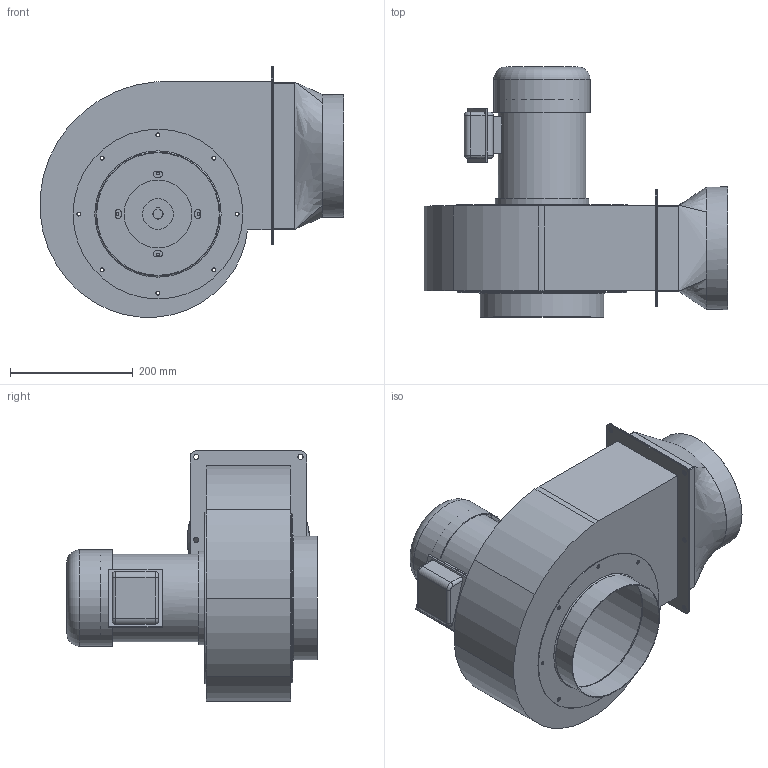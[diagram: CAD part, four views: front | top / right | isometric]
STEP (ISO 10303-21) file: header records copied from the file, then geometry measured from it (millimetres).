
FILE_DESCRIPTION(/* description */ ('Unknown'),/* implementation_level */ '2;1');
FILE_NAME(/* name */ 'CY230A4PV-EG 型錄',/* time_stamp */ '2026-06-29T11:50:23+08:00',/* author */ ('Unknown'),/* organization */ ('Unknown'),/* preprocessor_version */ 'ST-DEVELOPER v20',/* originating_system */ 'Solid Edge',/* authorisation */ 'Unknown');
FILE_SCHEMA (('AUTOMOTIVE_DESIGN {1 0 10303 214 3 1 1}'));
Length unit declared in the file: millimetre
Products named in the file (6): CY230A4PV-EG; CY230-01; CY230-04; CY230-05; CY230-06V-IEC; JM2794PV-EG
Assembly tree (5 placements, depth 2):
  CY230A4PV-EG
    CY230-01
    CY230-04
    CY230-05
    CY230-06V-IEC
    JM2794PV-EG
Bounding box: 494.95 x 408 x 408.2 mm (x, y, z)
Volume: 14102704.6 mm3; surface area: 1122069.8 mm2
Topology: 5 solids, 5 shells, 192 faces, 498 edges, 334 vertices
Faces by surface type: cylinder 104, plane 69, torus 11, bspline 8
Full cylindrical faces by diameter (mm): 5 x12, 6.5 x8, 7 x8, 8.5 x12, 16 x1, 16.8 x1, 50.5 x1, 110.5 x1, 143 x1, 153 x1, 154 x1, 157 x1, 197 x1, 200 x2, 202 x1, 238 x1, 277 x1, 280 x1
Entity records: 6541 total; most frequent: CARTESIAN_POINT 1712, DIRECTION 988, ORIENTED_EDGE 848, EDGE_CURVE 424, AXIS2_PLACEMENT_3D 410, EDGE_LOOP 356, FACE_BOUND 356, VERTEX_POINT 318
